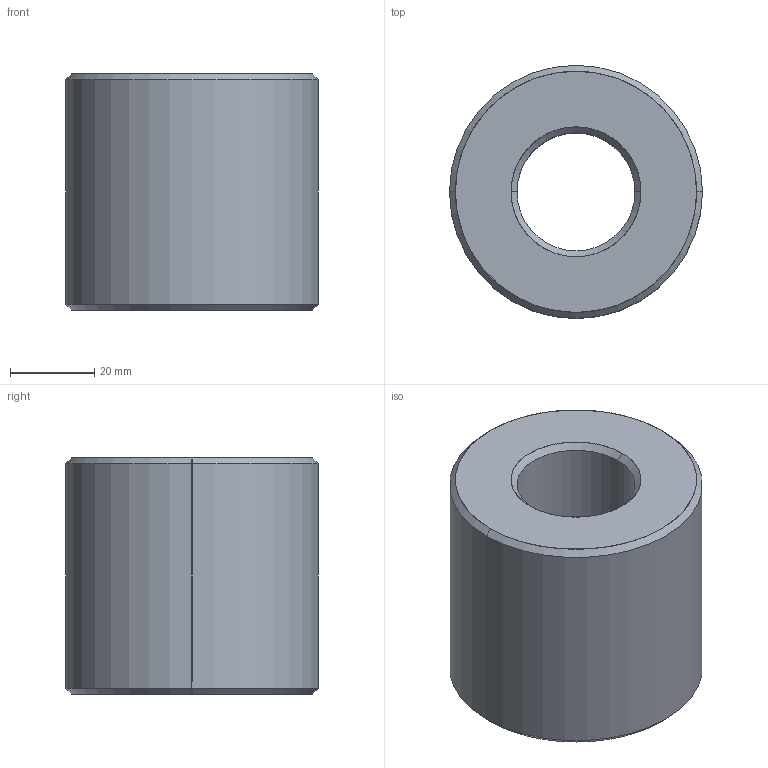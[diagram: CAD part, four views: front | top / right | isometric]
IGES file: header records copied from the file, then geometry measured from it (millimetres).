
Start section: SolidWorks IGES file using analytic representation for surfaces
Global section: file name: C:\Users\ianosborn\Desktop\L1330_v2\L1330_v2_20241024_IGES\L1330.R28-05.igs; native system: SolidWorks 2019; preprocessor: SolidWorks 2019; author: IanOsborn; date: 241024.102803; units: millimetre
Bounding box: 60 x 60 x 56 mm (x, y, z)
Surface area: 19451.7 mm2 (no closed solid volume)
Topology: 0 solids, 0 shells, 14 faces, 304 edges, 304 vertices
Faces by surface type: revolution 12, bspline 2
